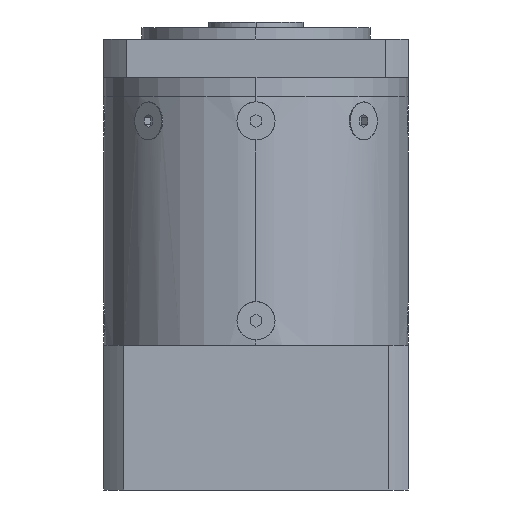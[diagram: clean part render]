
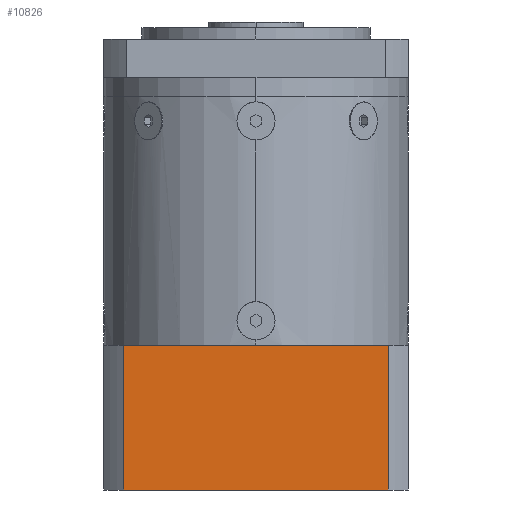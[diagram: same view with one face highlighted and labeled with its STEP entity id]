
A CAD part, left-side view. The second image highlights one B-rep face of the part: STEP entity #10826.
In plain terms, the highlighted planar face has unit normal (-1, 0, 0) as drawn and (0, -1, 0) by its records, which use the part's own axes.
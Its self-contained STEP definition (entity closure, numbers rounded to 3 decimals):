
#549 = DIRECTION ( 'NONE',  ( 1., 0., 0. ) ) ;
#899 = CARTESIAN_POINT ( 'NONE',  ( 34.771, -40., -50. ) ) ;
#1561 = ORIENTED_EDGE ( 'NONE', *, *, #22882, .F. ) ;
#2692 = VERTEX_POINT ( 'NONE', #899 ) ;
#6914 = CARTESIAN_POINT ( 'NONE',  ( -34.771, -40., 0. ) ) ;
#7521 = FACE_OUTER_BOUND ( 'NONE', #23779, .T. ) ;
#8365 = VERTEX_POINT ( 'NONE', #30543 ) ;
#9777 = EDGE_CURVE ( 'NONE', #35333, #17562, #22005, .T. ) ;
#10424 = EDGE_CURVE ( 'NONE', #2692, #35333, #12556, .T. ) ;
#10473 = DIRECTION ( 'NONE',  ( 0., 0., 1. ) ) ;
#10826 = ADVANCED_FACE ( 'NONE', ( #7521 ), #25918, .T. ) ;
#10982 = ORIENTED_EDGE ( 'NONE', *, *, #10424, .T. ) ;
#11448 = CARTESIAN_POINT ( 'NONE',  ( -34.771, -40., -12. ) ) ;
#12556 = LINE ( 'NONE', #33728, #29180 ) ;
#16172 = AXIS2_PLACEMENT_3D ( 'NONE', #25928, #25824, #25808 ) ;
#17562 = VERTEX_POINT ( 'NONE', #11448 ) ;
#18140 = CARTESIAN_POINT ( 'NONE',  ( 0., -40., -12. ) ) ;
#18664 = VECTOR ( 'NONE', #549, 1000. ) ;
#19779 = LINE ( 'NONE', #39399, #18664 ) ;
#20522 = CARTESIAN_POINT ( 'NONE',  ( 34.771, -40., -12. ) ) ;
#22005 = LINE ( 'NONE', #18140, #39769 ) ;
#22882 = EDGE_CURVE ( 'NONE', #8365, #17562, #27002, .T. ) ;
#23466 = EDGE_CURVE ( 'NONE', #8365, #2692, #19779, .T. ) ;
#23779 = EDGE_LOOP ( 'NONE', ( #10982, #33237, #1561, #38872 ) ) ;
#25808 = DIRECTION ( 'NONE',  ( 0., 0., -1. ) ) ;
#25824 = DIRECTION ( 'NONE',  ( 0., -1., 0. ) ) ;
#25918 = PLANE ( 'NONE',  #16172 ) ;
#25928 = CARTESIAN_POINT ( 'NONE',  ( -40., -40., -50. ) ) ;
#27002 = LINE ( 'NONE', #6914, #44752 ) ;
#29180 = VECTOR ( 'NONE', #33688, 1000. ) ;
#30543 = CARTESIAN_POINT ( 'NONE',  ( -34.771, -40., -50. ) ) ;
#33237 = ORIENTED_EDGE ( 'NONE', *, *, #9777, .T. ) ;
#33688 = DIRECTION ( 'NONE',  ( 0., 0., 1. ) ) ;
#33728 = CARTESIAN_POINT ( 'NONE',  ( 34.771, -40., -50. ) ) ;
#35333 = VERTEX_POINT ( 'NONE', #20522 ) ;
#37345 = DIRECTION ( 'NONE',  ( -1., 0., 0. ) ) ;
#38872 = ORIENTED_EDGE ( 'NONE', *, *, #23466, .T. ) ;
#39399 = CARTESIAN_POINT ( 'NONE',  ( 0., -40., -50. ) ) ;
#39769 = VECTOR ( 'NONE', #37345, 1000. ) ;
#44752 = VECTOR ( 'NONE', #10473, 1000. ) ;
